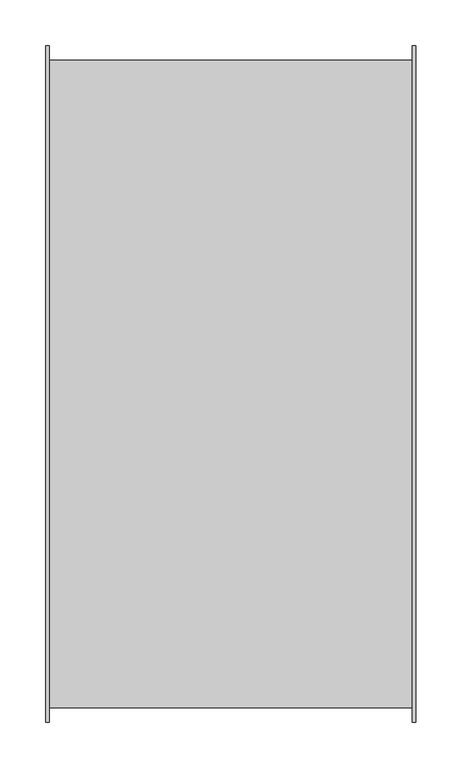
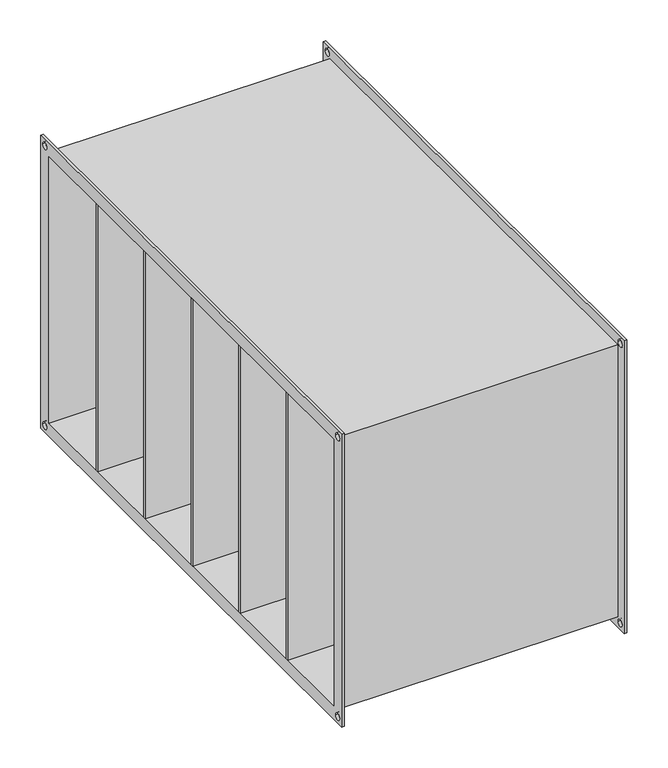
"""IFC4 building model written with IfcOpenShell, lengths in millimetres: damper geometry, СВ_ФильтрКарманныйУкороченный_КанальныйПрямоугольный_200-1000_SFPKU : SFPKU-700x400."""

from ifc_helpers import new_model, si_unit, frame, origin, place, context, project, spatial, polyline, circle_curve, outline, extrude, source, transform, mapped, element, save
from ifc_brep_helpers import plane_surface, revolved_surface, advanced_brep


def damper_776b84f0(model_context):
    return source(origin(), model_context, "Body", "SolidModel", [
        extrude(outline(polyline([(202.5, 233.3333333), (202.5, 229.3333333), (-202.5, 229.3333333), (-202.5, 233.3333333), (202.5, 233.3333333)])), frame((0.0, 0.0, -200.0), z_axis=(0.0, 0.0, 1.0), x_axis=(1.0, 0.0, 0.0)), (0.0, 0.0, 1.0), 400.0),
        extrude(outline(polyline([(202.5, 116.6666667), (202.5, 112.6666667), (-202.5, 112.6666667), (-202.5, 116.6666667), (202.5, 116.6666667)])), frame((0.0, 0.0, -200.0), z_axis=(0.0, 0.0, 1.0), x_axis=(1.0, 0.0, 0.0)), (0.0, 0.0, 1.0), 400.0),
        extrude(outline(polyline([(202.5, 0.0), (202.5, -4.0), (-202.5, -4.0), (-202.5, 0.0), (202.5, 0.0)])), frame((0.0, 0.0, -200.0), z_axis=(0.0, 0.0, 1.0), x_axis=(1.0, 0.0, 0.0)), (0.0, 0.0, 1.0), 400.0),
        extrude(outline(polyline([(202.5, -116.6666667), (202.5, -120.6666667), (-202.5, -120.6666667), (-202.5, -116.6666667), (202.5, -116.6666667)])), frame((0.0, 0.0, -200.0), z_axis=(0.0, 0.0, 1.0), x_axis=(1.0, 0.0, 0.0)), (0.0, 0.0, 1.0), 400.0),
        extrude(outline(polyline([(202.5, -233.3333333), (202.5, -237.3333333), (-202.5, -237.3333333), (-202.5, -233.3333333), (202.5, -233.3333333)])), frame((0.0, 0.0, -200.0), z_axis=(0.0, 0.0, 1.0), x_axis=(1.0, 0.0, 0.0)), (0.0, 0.0, 1.0), 400.0),
        advanced_brep(
        [(198.5, -354.0, 204.0), (-198.5, -354.0, 204.0), (-198.5, -354.0, -204.0), (198.5, -354.0, -204.0), (-198.5, 354.0, -204.0), (198.5, 354.0, -204.0), (-198.5, 354.0, 204.0), (198.5, 354.0, 204.0), (-202.5, -370.0, 220.0), (-202.5, 370.0, 220.0), (-202.5, 370.0, -220.0), (-202.5, -370.0, -220.0), (-202.5, -350.0, 200.0), (-202.5, -350.0, -200.0), (-202.5, 350.0, -200.0), (-202.5, 350.0, 200.0), (-202.5, 355.0, 210.0), (-202.5, 365.0, 210.0), (-202.5, -365.0, 210.0), (-202.5, -355.0, 210.0), (-202.5, -365.0, -210.0), (-202.5, -355.0, -210.0), (-202.5, 355.0, -210.0), (-202.5, 365.0, -210.0), (-198.5, -370.0, 220.0), (-198.5, -370.0, -220.0), (-198.5, 370.0, -220.0), (-198.5, 370.0, 220.0), (-198.5, 365.0, 210.0), (-198.5, 355.0, 210.0), (-198.5, -355.0, 210.0), (-198.5, -365.0, 210.0), (-198.5, -355.0, -210.0), (-198.5, -365.0, -210.0), (-198.5, 365.0, -210.0), (-198.5, 355.0, -210.0), (202.5, 350.0, 200.0), (202.5, -350.0, 200.0), (202.5, 350.0, -200.0), (202.5, -350.0, -200.0), (198.5, 370.0, 220.0), (198.5, 370.0, -220.0), (198.5, -370.0, -220.0), (198.5, -370.0, 220.0), (198.5, 355.0, 210.0), (198.5, 365.0, 210.0), (198.5, -365.0, 210.0), (198.5, -355.0, 210.0), (198.5, -365.0, -210.0), (198.5, -355.0, -210.0), (198.5, 355.0, -210.0), (198.5, 365.0, -210.0), (202.5, 370.0, 220.0), (202.5, -370.0, 220.0), (202.5, -370.0, -220.0), (202.5, 370.0, -220.0), (202.5, 365.0, 210.0), (202.5, 355.0, 210.0), (202.5, -355.0, 210.0), (202.5, -365.0, 210.0), (202.5, -355.0, -210.0), (202.5, -365.0, -210.0), (202.5, 365.0, -210.0), (202.5, 355.0, -210.0)],
        [
            (0, 1),
            (1, 2),
            (2, 3),
            (3, 0),
            (2, 4),
            (4, 5),
            (5, 3),
            (4, 6),
            (6, 7),
            (7, 5),
            (0, 7),
            (6, 1),
            (8, 9),
            (9, 10),
            (10, 11),
            (11, 8),
            (12, 13),
            (13, 14),
            (14, 15),
            (15, 12),
            (16, 17, circle_curve(frame((-202.5, 360.0, 210.0), z_axis=(1.0, 0.0, 0.0), x_axis=(0.0, 1.0, 0.0)), 5.0)),
            (17, 16, circle_curve(frame((-202.5, 360.0, 210.0), z_axis=(1.0, 0.0, 0.0), x_axis=(0.0, 1.0, 0.0)), 5.0)),
            (18, 19, circle_curve(frame((-202.5, -360.0, 210.0), z_axis=(1.0, 0.0, 0.0), x_axis=(0.0, 1.0, 0.0)), 5.0)),
            (19, 18, circle_curve(frame((-202.5, -360.0, 210.0), z_axis=(1.0, 0.0, 0.0), x_axis=(0.0, 1.0, 0.0)), 5.0)),
            (20, 21, circle_curve(frame((-202.5, -360.0, -210.0), z_axis=(1.0, 0.0, 0.0), x_axis=(0.0, 1.0, 0.0)), 5.0)),
            (21, 20, circle_curve(frame((-202.5, -360.0, -210.0), z_axis=(1.0, 0.0, 0.0), x_axis=(0.0, 1.0, 0.0)), 5.0)),
            (22, 23, circle_curve(frame((-202.5, 360.0, -210.0), z_axis=(1.0, 0.0, 0.0), x_axis=(0.0, 1.0, 0.0)), 5.0)),
            (23, 22, circle_curve(frame((-202.5, 360.0, -210.0), z_axis=(1.0, 0.0, 0.0), x_axis=(0.0, 1.0, 0.0)), 5.0)),
            (24, 25),
            (25, 26),
            (26, 27),
            (27, 24),
            (28, 29, circle_curve(frame((-198.5, 360.0, 210.0), z_axis=(-1.0, 0.0, 0.0), x_axis=(0.0, 1.0, 0.0)), 5.0)),
            (29, 28, circle_curve(frame((-198.5, 360.0, 210.0), z_axis=(-1.0, 0.0, 0.0), x_axis=(0.0, 1.0, 0.0)), 5.0)),
            (30, 31, circle_curve(frame((-198.5, -360.0, 210.0), z_axis=(-1.0, 0.0, 0.0), x_axis=(0.0, 1.0, 0.0)), 5.0)),
            (31, 30, circle_curve(frame((-198.5, -360.0, 210.0), z_axis=(-1.0, 0.0, 0.0), x_axis=(0.0, 1.0, 0.0)), 5.0)),
            (32, 33, circle_curve(frame((-198.5, -360.0, -210.0), z_axis=(-1.0, 0.0, 0.0), x_axis=(0.0, 1.0, 0.0)), 5.0)),
            (33, 32, circle_curve(frame((-198.5, -360.0, -210.0), z_axis=(-1.0, 0.0, 0.0), x_axis=(0.0, 1.0, 0.0)), 5.0)),
            (34, 35, circle_curve(frame((-198.5, 360.0, -210.0), z_axis=(-1.0, 0.0, 0.0), x_axis=(0.0, 1.0, 0.0)), 5.0)),
            (35, 34, circle_curve(frame((-198.5, 360.0, -210.0), z_axis=(-1.0, 0.0, 0.0), x_axis=(0.0, 1.0, 0.0)), 5.0)),
            (11, 25),
            (24, 8),
            (10, 26),
            (9, 27),
            (15, 36),
            (36, 37),
            (37, 12),
            (14, 38),
            (38, 36),
            (13, 39),
            (39, 38),
            (37, 39),
            (40, 41),
            (41, 42),
            (42, 43),
            (43, 40),
            (44, 45, circle_curve(frame((198.5, 360.0, 210.0), z_axis=(1.0, 0.0, 0.0), x_axis=(0.0, 1.0, 0.0)), 5.0)),
            (45, 44, circle_curve(frame((198.5, 360.0, 210.0), z_axis=(1.0, 0.0, 0.0), x_axis=(0.0, 1.0, 0.0)), 5.0)),
            (46, 47, circle_curve(frame((198.5, -360.0, 210.0), z_axis=(1.0, 0.0, 0.0), x_axis=(0.0, 1.0, 0.0)), 5.0)),
            (47, 46, circle_curve(frame((198.5, -360.0, 210.0), z_axis=(1.0, 0.0, 0.0), x_axis=(0.0, 1.0, 0.0)), 5.0)),
            (48, 49, circle_curve(frame((198.5, -360.0, -210.0), z_axis=(1.0, 0.0, 0.0), x_axis=(0.0, 1.0, 0.0)), 5.0)),
            (49, 48, circle_curve(frame((198.5, -360.0, -210.0), z_axis=(1.0, 0.0, 0.0), x_axis=(0.0, 1.0, 0.0)), 5.0)),
            (50, 51, circle_curve(frame((198.5, 360.0, -210.0), z_axis=(1.0, 0.0, 0.0), x_axis=(0.0, 1.0, 0.0)), 5.0)),
            (51, 50, circle_curve(frame((198.5, 360.0, -210.0), z_axis=(1.0, 0.0, 0.0), x_axis=(0.0, 1.0, 0.0)), 5.0)),
            (52, 53),
            (53, 54),
            (54, 55),
            (55, 52),
            (56, 57, circle_curve(frame((202.5, 360.0, 210.0), z_axis=(-1.0, 0.0, 0.0), x_axis=(0.0, 1.0, 0.0)), 5.0)),
            (57, 56, circle_curve(frame((202.5, 360.0, 210.0), z_axis=(-1.0, 0.0, 0.0), x_axis=(0.0, 1.0, 0.0)), 5.0)),
            (58, 59, circle_curve(frame((202.5, -360.0, 210.0), z_axis=(-1.0, 0.0, 0.0), x_axis=(0.0, 1.0, 0.0)), 5.0)),
            (59, 58, circle_curve(frame((202.5, -360.0, 210.0), z_axis=(-1.0, 0.0, 0.0), x_axis=(0.0, 1.0, 0.0)), 5.0)),
            (60, 61, circle_curve(frame((202.5, -360.0, -210.0), z_axis=(-1.0, 0.0, 0.0), x_axis=(0.0, 1.0, 0.0)), 5.0)),
            (61, 60, circle_curve(frame((202.5, -360.0, -210.0), z_axis=(-1.0, 0.0, 0.0), x_axis=(0.0, 1.0, 0.0)), 5.0)),
            (62, 63, circle_curve(frame((202.5, 360.0, -210.0), z_axis=(-1.0, 0.0, 0.0), x_axis=(0.0, 1.0, 0.0)), 5.0)),
            (63, 62, circle_curve(frame((202.5, 360.0, -210.0), z_axis=(-1.0, 0.0, 0.0), x_axis=(0.0, 1.0, 0.0)), 5.0)),
            (43, 53),
            (52, 40),
            (42, 54),
            (41, 55),
            (16, 29),
            (28, 17),
            (44, 57),
            (56, 45),
            (18, 31),
            (30, 19),
            (46, 59),
            (58, 47),
            (20, 33),
            (32, 21),
            (48, 61),
            (60, 49),
            (22, 35),
            (34, 23),
            (50, 63),
            (62, 51),
        ],
        [
            plane_surface(frame((198.5, -354.0, 204.0), z_axis=(0.0, -1.0, 0.0), x_axis=(-1.0, 0.0, 0.0))),
            plane_surface(frame((198.5, -354.0, -204.0), z_axis=(0.0, 0.0, -1.0), x_axis=(-1.0, 0.0, 0.0))),
            plane_surface(frame((198.5, 354.0, -204.0), z_axis=(0.0, 1.0, 0.0), x_axis=(-1.0, 0.0, 0.0))),
            plane_surface(frame((198.5, 354.0, 204.0), z_axis=(0.0, 0.0, 1.0), x_axis=(-1.0, 0.0, 0.0))),
            plane_surface(frame((-202.5, -370.0, 220.0), z_axis=(-1.0, 0.0, 0.0), x_axis=(0.0, 0.0, 1.0))),
            plane_surface(frame((-198.5, -370.0, 220.0), z_axis=(1.0, 0.0, 0.0), x_axis=(0.0, 0.0, -1.0))),
            plane_surface(frame((-198.5, -370.0, 220.0), z_axis=(0.0, -1.0, 0.0), x_axis=(-1.0, 0.0, 0.0))),
            plane_surface(frame((-198.5, -370.0, -220.0), z_axis=(0.0, 0.0, -1.0), x_axis=(-1.0, 0.0, 0.0))),
            plane_surface(frame((-198.5, 370.0, -220.0), z_axis=(0.0, 1.0, 0.0), x_axis=(-1.0, 0.0, 0.0))),
            plane_surface(frame((-198.5, 370.0, 220.0), z_axis=(0.0, 0.0, 1.0), x_axis=(-1.0, 0.0, 0.0))),
            plane_surface(frame((-198.5, -350.0, 200.0), z_axis=(0.0, 0.0, -1.0), x_axis=(-1.0, 0.0, 0.0))),
            plane_surface(frame((-198.5, 350.0, 200.0), z_axis=(0.0, -1.0, 0.0), x_axis=(-1.0, 0.0, 0.0))),
            plane_surface(frame((-198.5, 350.0, -200.0), z_axis=(0.0, 0.0, 1.0), x_axis=(-1.0, 0.0, 0.0))),
            plane_surface(frame((-198.5, -350.0, -200.0), z_axis=(0.0, 1.0, 0.0), x_axis=(-1.0, 0.0, 0.0))),
            plane_surface(frame((198.5, 350.0, -200.0), z_axis=(-1.0, 0.0, 0.0), x_axis=(0.0, 0.0, 1.0))),
            plane_surface(frame((202.5, 350.0, -200.0), z_axis=(1.0, 0.0, 0.0), x_axis=(0.0, 0.0, -1.0))),
            plane_surface(frame((202.5, 370.0, 220.0), z_axis=(0.0, 0.0, 1.0), x_axis=(-1.0, 0.0, 0.0))),
            plane_surface(frame((202.5, -370.0, 220.0), z_axis=(0.0, -1.0, 0.0), x_axis=(-1.0, 0.0, 0.0))),
            plane_surface(frame((202.5, -370.0, -220.0), z_axis=(0.0, 0.0, -1.0), x_axis=(-1.0, 0.0, 0.0))),
            plane_surface(frame((202.5, 370.0, -220.0), z_axis=(0.0, 1.0, 0.0), x_axis=(-1.0, 0.0, 0.0))),
            revolved_surface(polyline([(-198.5, 365.0, 210.0), (-202.5, 365.0, 210.0)]), (-202.5, 360.0, 210.0), (1.0, 0.0, 0.0)),
            revolved_surface(polyline([(202.5, 365.0, 210.0), (198.5, 365.0, 210.0)]), (-202.5, 360.0, 210.0), (1.0, 0.0, 0.0)),
            revolved_surface(polyline([(-198.5, -355.0, 210.0), (-202.5, -355.0, 210.0)]), (0.0, -360.0, 210.0), (1.0, 0.0, 0.0)),
            revolved_surface(polyline([(202.5, -355.0, 210.0), (198.5, -355.0, 210.0)]), (0.0, -360.0, 210.0), (1.0, 0.0, 0.0)),
            revolved_surface(polyline([(-198.5, -355.0, -210.0), (-202.5, -355.0, -210.0)]), (0.0, -360.0, -210.0), (1.0, 0.0, 0.0)),
            revolved_surface(polyline([(202.5, -355.0, -210.0), (198.5, -355.0, -210.0)]), (0.0, -360.0, -210.0), (1.0, 0.0, 0.0)),
            revolved_surface(polyline([(-198.5, 365.0, -210.0), (-202.5, 365.0, -210.0)]), (0.0, 360.0, -210.0), (1.0, 0.0, 0.0)),
            revolved_surface(polyline([(202.5, 365.0, -210.0), (198.5, 365.0, -210.0)]), (0.0, 360.0, -210.0), (1.0, 0.0, 0.0)),
        ],
        [
            (0, [[1, 2, 3, 4]]),
            (1, [[-3, 5, 6, 7]]),
            (2, [[-6, 8, 9, 10]]),
            (3, [[-1, 11, -9, 12]]),
            (4, [[13, 14, 15, 16], [17, 18, 19, 20], [21, 22], [23, 24], [25, 26], [27, 28]]),
            (5, [[29, 30, 31, 32], [-2, -12, -8, -5], [33, 34], [35, 36], [37, 38], [39, 40]]),
            (6, [[-16, 41, -29, 42]]),
            (7, [[-15, 43, -30, -41]]),
            (8, [[-14, 44, -31, -43]]),
            (9, [[-13, -42, -32, -44]]),
            (10, [[-20, 45, 46, 47]]),
            (11, [[-45, -19, 48, 49]]),
            (12, [[-48, -18, 50, 51]]),
            (13, [[-50, -17, -47, 52]]),
            (14, [[53, 54, 55, 56], [-4, -7, -10, -11], [57, 58], [59, 60], [61, 62], [63, 64]]),
            (15, [[65, 66, 67, 68], [-49, -51, -52, -46], [69, 70], [71, 72], [73, 74], [75, 76]]),
            (16, [[-56, 77, -65, 78]]),
            (17, [[-55, 79, -66, -77]]),
            (18, [[-54, 80, -67, -79]]),
            (19, [[-53, -78, -68, -80]]),
            (20, [[81, -33, 82, -21]]),
            (21, [[83, -69, 84, -57]]),
            (20, [[-81, -22, -82, -34]]),
            (21, [[-83, -58, -84, -70]]),
            (22, [[85, -35, 86, -23]]),
            (23, [[87, -71, 88, -59]]),
            (22, [[-85, -24, -86, -36]]),
            (23, [[-87, -60, -88, -72]]),
            (24, [[89, -37, 90, -25]]),
            (25, [[91, -73, 92, -61]]),
            (24, [[-89, -26, -90, -38]]),
            (25, [[-91, -62, -92, -74]]),
            (26, [[93, -39, 94, -27]]),
            (27, [[95, -75, 96, -63]]),
            (26, [[-93, -28, -94, -40]]),
            (27, [[-95, -64, -96, -76]]),
        ],
    ),
    ])


if __name__ == "__main__":
    model = new_model("IFC4")
    model_context = context("Model", 3, world=origin())
    ifc_project = project(units=[si_unit("LENGTHUNIT", "METRE", prefix="MILLI")], contexts=[model_context])
    site = spatial("IfcSite", under=ifc_project)
    building = spatial("IfcBuilding", under=site)
    placement = place(None, origin())
    damper_shape = damper_776b84f0(model_context)
    element("IfcDamper", 1, ObjectType="СВ_ФильтрКарманныйУкороченный_КанальныйПрямоугольный_200-1000_SFPKU : SFPKU-700x400", at=placement, inside=building, context=model_context, shape_type="MappedRepresentation", body=[
        mapped(damper_shape, transform((0.0, 0.0, 0.0), x_axis=(1.0, 0.0, 0.0), y_axis=(0.0, 1.0, 0.0), z_axis=(0.0, 0.0, 1.0))),
    ])
    save(model, "model.ifc")
